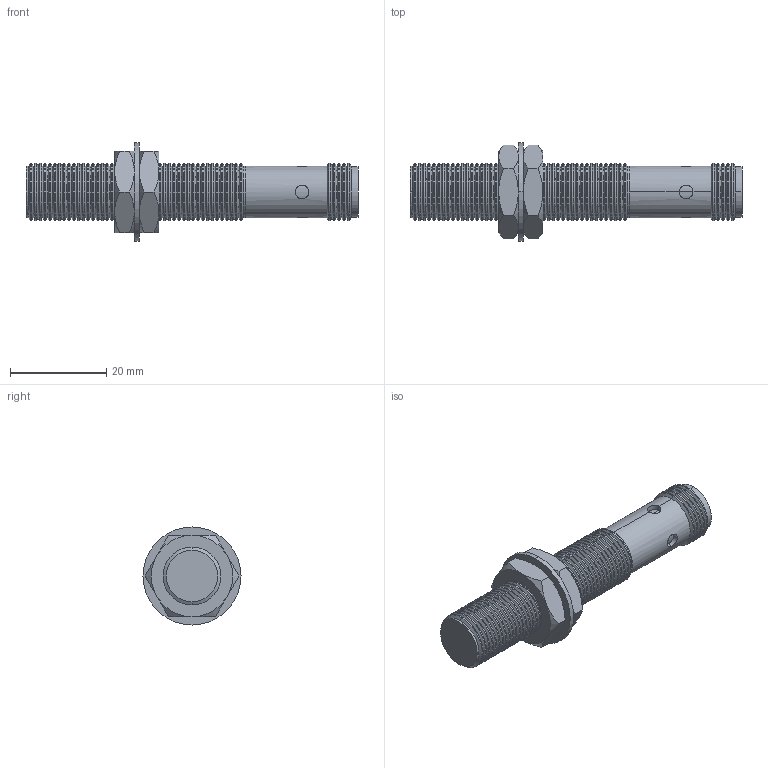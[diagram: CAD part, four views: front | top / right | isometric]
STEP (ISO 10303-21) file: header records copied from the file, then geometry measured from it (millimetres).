
FILE_DESCRIPTION (( 'STEP AP203' ), '1' );
FILE_NAME ('90-29417-067.STEP', '2015-11-30T02:36:40', ( 'Sam' ), ( 'Spade' ), 'SwSTEP 2.0', 'SolidWorks 2002296', '' );
FILE_SCHEMA (( 'CONFIG_CONTROL_DESIGN' ));
Length unit declared in the file: inch
Products named in the file (13): 90-29417-067; Imported; Imported2; Imported1; Imported6; Imported5; Imported4; Imported3; Imported9; Imported8; Imported7; Imported11; Imported10
Assembly tree (12 placements, depth 2):
  90-29417-067
    Imported
    Imported4
    Imported8
    Imported7
    Imported2
    Imported1
    Imported10
    Imported5
    Imported6
    Imported3
    Imported9
    Imported11
Bounding box: 68.83 x 20.32 x 20.32 mm (x, y, z)
Volume: 7910 mm3; surface area: 7343.5 mm2
Topology: 12 solids, 12 shells, 518 faces, 1189 edges, 688 vertices
Faces by surface type: cone 260, cylinder 166, plane 84, bspline 8
Entity records: 16398 total; most frequent: CARTESIAN_POINT 3090, DIRECTION 2731, ORIENTED_EDGE 2362, EDGE_CURVE 1181, AXIS2_PLACEMENT_3D 1089, VERTEX_POINT 688, CIRCLE 564, LINE 553
